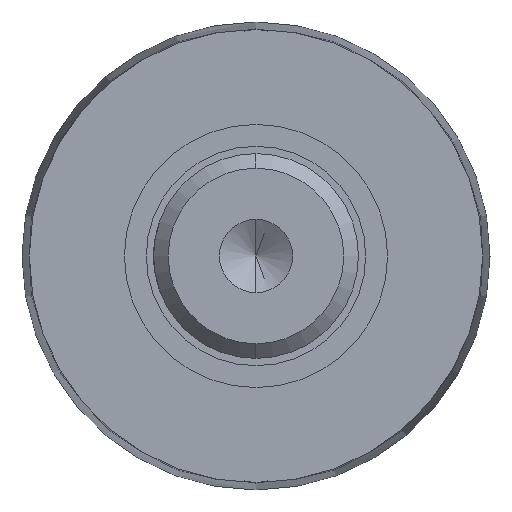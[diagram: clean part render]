
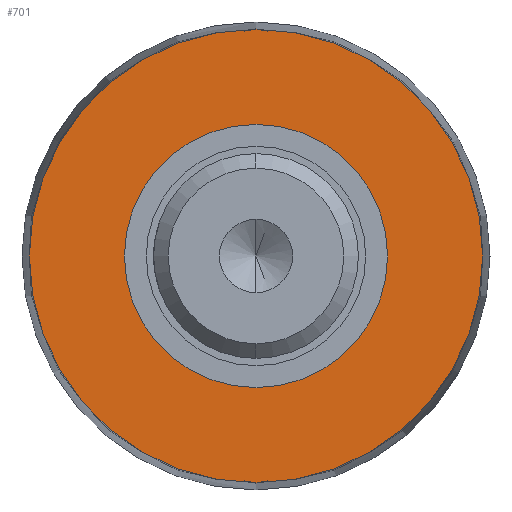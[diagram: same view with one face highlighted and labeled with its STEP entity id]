
A CAD part, left-side view. The second image highlights one B-rep face of the part: STEP entity #701.
In plain terms, the highlighted planar face has unit normal (-1, 0, 0).
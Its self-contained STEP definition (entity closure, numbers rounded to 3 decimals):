
#50 = DIRECTION ( 'NONE',  ( 0., 0., 1. ) ) ;
#52 = DIRECTION ( 'NONE',  ( -1., 0., 0. ) ) ;
#53 = CARTESIAN_POINT ( 'NONE',  ( 98.5, 0., 0. ) ) ;
#54 = DIRECTION ( 'NONE',  ( 0., 0., -1. ) ) ;
#55 = DIRECTION ( 'NONE',  ( 1., 0., 0. ) ) ;
#56 = CARTESIAN_POINT ( 'NONE',  ( 98.5, 0., 0. ) ) ;
#103 = EDGE_CURVE ( 'NONE', #268, #275, #248, .T. ) ;
#104 = EDGE_CURVE ( 'NONE', #844, #279, #249, .T. ) ;
#248 = CIRCLE ( 'NONE', #605, 9. ) ;
#249 = CIRCLE ( 'NONE', #606, 15.5 ) ;
#268 = VERTEX_POINT ( 'NONE', #1213 ) ;
#275 = VERTEX_POINT ( 'NONE', #1314 ) ;
#279 = VERTEX_POINT ( 'NONE', #583 ) ;
#409 = ORIENTED_EDGE ( 'NONE', *, *, #103, .T. ) ;
#411 = ORIENTED_EDGE ( 'NONE', *, *, #880, .T. ) ;
#413 = ORIENTED_EDGE ( 'NONE', *, *, #104, .T. ) ;
#421 = ORIENTED_EDGE ( 'NONE', *, *, #852, .T. ) ;
#439 = CARTESIAN_POINT ( 'NONE',  ( 98.5, 16., 0. ) ) ;
#448 = PLANE ( 'NONE',  #1288 ) ;
#450 = DIRECTION ( 'NONE',  ( -1., 0., 0. ) ) ;
#451 = DIRECTION ( 'NONE',  ( 0., 0., 1. ) ) ;
#477 = CIRCLE ( 'NONE', #1119, 9. ) ;
#518 = CIRCLE ( 'NONE', #1307, 15.5 ) ;
#554 = FACE_OUTER_BOUND ( 'NONE', #832, .T. ) ;
#560 = FACE_BOUND ( 'NONE', #850, .T. ) ;
#583 = CARTESIAN_POINT ( 'NONE',  ( 98.5, 0., 15.5 ) ) ;
#605 = AXIS2_PLACEMENT_3D ( 'NONE', #56, #55, #54 ) ;
#606 = AXIS2_PLACEMENT_3D ( 'NONE', #53, #52, #50 ) ;
#701 = ADVANCED_FACE ( 'NONE', ( #560, #554 ), #448, .T. ) ;
#832 = EDGE_LOOP ( 'NONE', ( #413, #421 ) ) ;
#844 = VERTEX_POINT ( 'NONE', #1237 ) ;
#850 = EDGE_LOOP ( 'NONE', ( #411, #409 ) ) ;
#852 = EDGE_CURVE ( 'NONE', #279, #844, #518, .T. ) ;
#880 = EDGE_CURVE ( 'NONE', #275, #268, #477, .T. ) ;
#1029 = CARTESIAN_POINT ( 'NONE',  ( 98.5, 0., 0. ) ) ;
#1030 = DIRECTION ( 'NONE',  ( 1., 0., 0. ) ) ;
#1031 = DIRECTION ( 'NONE',  ( 0., 0., -1. ) ) ;
#1119 = AXIS2_PLACEMENT_3D ( 'NONE', #1029, #1030, #1031 ) ;
#1213 = CARTESIAN_POINT ( 'NONE',  ( 98.5, 0., 9. ) ) ;
#1237 = CARTESIAN_POINT ( 'NONE',  ( 98.5, 0., -15.5 ) ) ;
#1241 = CARTESIAN_POINT ( 'NONE',  ( 98.5, 0., 0. ) ) ;
#1242 = DIRECTION ( 'NONE',  ( -1., 0., 0. ) ) ;
#1243 = DIRECTION ( 'NONE',  ( 0., 0., 1. ) ) ;
#1288 = AXIS2_PLACEMENT_3D ( 'NONE', #439, #450, #451 ) ;
#1307 = AXIS2_PLACEMENT_3D ( 'NONE', #1241, #1242, #1243 ) ;
#1314 = CARTESIAN_POINT ( 'NONE',  ( 98.5, 0., -9. ) ) ;
